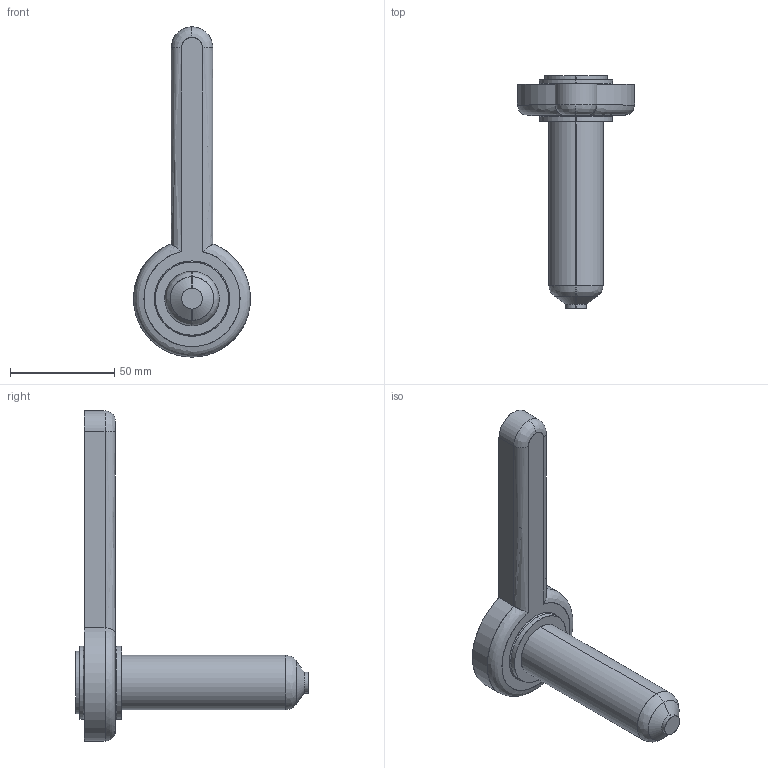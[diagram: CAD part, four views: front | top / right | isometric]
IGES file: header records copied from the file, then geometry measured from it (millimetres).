
Start section: SolidWorks IGES file using analytic representation for surfaces
Global section: file name: C:\Documents and Settings\ws-20\Desktop\TEM\Sede UGEP3152-S-A C-89 L-109 P-0.IGS; native system: SolidWorks 2012; preprocessor: SolidWorks 2012; author: ws-20; date: 120404.085154; units: millimetre
Bounding box: 56 x 111.23 x 158 mm (x, y, z)
Surface area: 21209.3 mm2 (no closed solid volume)
Topology: 0 solids, 0 shells, 34 faces, 754 edges, 754 vertices
Faces by surface type: revolution 21, bspline 13
